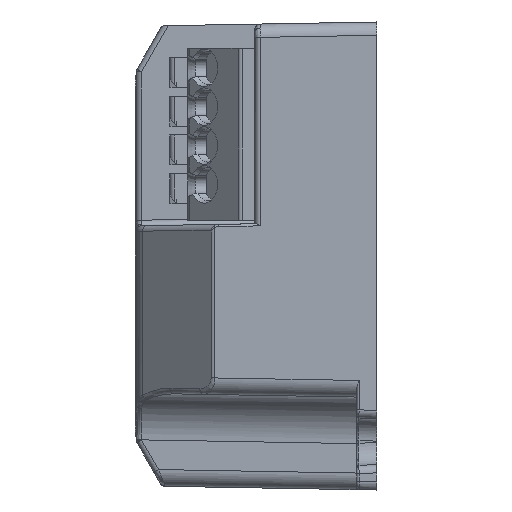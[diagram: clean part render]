
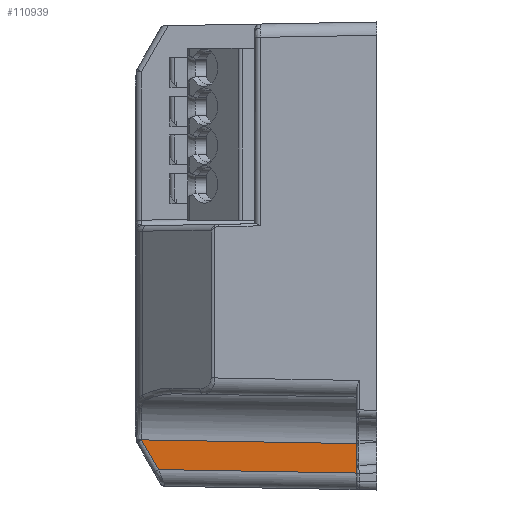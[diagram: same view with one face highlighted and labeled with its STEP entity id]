
A CAD part, left-side view. The second image highlights one B-rep face of the part: STEP entity #110939.
In plain terms, the highlighted planar face has unit normal (-1, 0.018, 0).
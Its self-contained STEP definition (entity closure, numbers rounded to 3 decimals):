
#85977 = PLANE('',#85978);
#85978 = AXIS2_PLACEMENT_3D('',#85979,#85980,#85981);
#85979 = CARTESIAN_POINT('',(-44.595,1.8,-16.995));
#85980 = DIRECTION('',(0.,-1.,0.));
#85981 = DIRECTION('',(0.,-0.,-1.));
#90528 = CYLINDRICAL_SURFACE('',#90529,0.5);
#90529 = AXIS2_PLACEMENT_3D('',#90530,#90531,#90532);
#90530 = CARTESIAN_POINT('',(-39.48,21.2,-21.1));
#90531 = DIRECTION('',(0.,0.,1.));
#90532 = DIRECTION('',(1.,0.,-0.));
#110939 = ADVANCED_FACE('',(#110940),#110954,.T.);
#110940 = FACE_BOUND('',#110941,.T.);
#110941 = EDGE_LOOP('',(#110942,#110972,#111000,#111028,#111051));
#110942 = ORIENTED_EDGE('',*,*,#110943,.T.);
#110943 = EDGE_CURVE('',#110944,#110946,#110948,.T.);
#110944 = VERTEX_POINT('',#110945);
#110945 = CARTESIAN_POINT('',(-39.98,21.209,
    -16.579));
#110946 = VERTEX_POINT('',#110947);
#110947 = CARTESIAN_POINT('',(-39.98,21.209,
    -16.593));
#110948 = SURFACE_CURVE('',#110949,(#110953,#110965),.PCURVE_S1.);
#110949 = LINE('',#110950,#110951);
#110950 = CARTESIAN_POINT('',(-39.98,21.209,-21.1));
#110951 = VECTOR('',#110952,1.);
#110952 = DIRECTION('',(0.,0.,-1.));
#110953 = PCURVE('',#110954,#110959);
#110954 = PLANE('',#110955);
#110955 = AXIS2_PLACEMENT_3D('',#110956,#110957,#110958);
#110956 = CARTESIAN_POINT('',(-40.35,0.,-21.1));
#110957 = DIRECTION('',(-1.,0.017,0.));
#110958 = DIRECTION('',(-0.017,-1.,0.));
#110959 = DEFINITIONAL_REPRESENTATION('',(#110960),#110964);
#110960 = LINE('',#110961,#110962);
#110961 = CARTESIAN_POINT('',(-21.212,0.));
#110962 = VECTOR('',#110963,1.);
#110963 = DIRECTION('',(-0.,-1.));
#110964 = ( GEOMETRIC_REPRESENTATION_CONTEXT(2) 
PARAMETRIC_REPRESENTATION_CONTEXT() REPRESENTATION_CONTEXT('2D SPACE',''
  ) );
#110965 = PCURVE('',#90528,#110966);
#110966 = DEFINITIONAL_REPRESENTATION('',(#110967),#110971);
#110967 = LINE('',#110968,#110969);
#110968 = CARTESIAN_POINT('',(3.124,0.));
#110969 = VECTOR('',#110970,1.);
#110970 = DIRECTION('',(0.,-1.));
#110971 = ( GEOMETRIC_REPRESENTATION_CONTEXT(2) 
PARAMETRIC_REPRESENTATION_CONTEXT() REPRESENTATION_CONTEXT('2D SPACE',''
  ) );
#110972 = ORIENTED_EDGE('',*,*,#110973,.T.);
#110973 = EDGE_CURVE('',#110946,#110974,#110976,.T.);
#110974 = VERTEX_POINT('',#110975);
#110975 = CARTESIAN_POINT('',(-40.007,19.671,
    -19.257));
#110976 = SURFACE_CURVE('',#110977,(#110981,#110988),.PCURVE_S1.);
#110977 = LINE('',#110978,#110979);
#110978 = CARTESIAN_POINT('',(-40.106,13.954,
    -29.159));
#110979 = VECTOR('',#110980,1.);
#110980 = DIRECTION('',(-0.009,-0.5,
    -0.866));
#110981 = PCURVE('',#110954,#110982);
#110982 = DEFINITIONAL_REPRESENTATION('',(#110983),#110987);
#110983 = LINE('',#110984,#110985);
#110984 = CARTESIAN_POINT('',(-13.956,-8.059));
#110985 = VECTOR('',#110986,1.);
#110986 = DIRECTION('',(0.5,-0.866));
#110987 = ( GEOMETRIC_REPRESENTATION_CONTEXT(2) 
PARAMETRIC_REPRESENTATION_CONTEXT() REPRESENTATION_CONTEXT('2D SPACE',''
  ) );
#110988 = PCURVE('',#110989,#110994);
#110989 = CYLINDRICAL_SURFACE('',#110990,0.5);
#110990 = AXIS2_PLACEMENT_3D('',#110991,#110992,#110993);
#110991 = CARTESIAN_POINT('',(-39.607,13.945,
    -29.159));
#110992 = DIRECTION('',(0.009,0.5,0.866
    ));
#110993 = DIRECTION('',(0.,-0.866,0.5));
#110994 = DEFINITIONAL_REPRESENTATION('',(#110995),#110999);
#110995 = LINE('',#110996,#110997);
#110996 = CARTESIAN_POINT('',(4.697,0.));
#110997 = VECTOR('',#110998,1.);
#110998 = DIRECTION('',(0.,-1.));
#110999 = ( GEOMETRIC_REPRESENTATION_CONTEXT(2) 
PARAMETRIC_REPRESENTATION_CONTEXT() REPRESENTATION_CONTEXT('2D SPACE',''
  ) );
#111000 = ORIENTED_EDGE('',*,*,#111001,.T.);
#111001 = EDGE_CURVE('',#110974,#111002,#111004,.T.);
#111002 = VERTEX_POINT('',#111003);
#111003 = CARTESIAN_POINT('',(-40.319,1.8,-19.569));
#111004 = SURFACE_CURVE('',#111005,(#111009,#111016),.PCURVE_S1.);
#111005 = LINE('',#111006,#111007);
#111006 = CARTESIAN_POINT('',(-40.35,-0.026,
    -19.601));
#111007 = VECTOR('',#111008,1.);
#111008 = DIRECTION('',(-0.017,-1.,
    -0.017));
#111009 = PCURVE('',#110954,#111010);
#111010 = DEFINITIONAL_REPRESENTATION('',(#111011),#111015);
#111011 = LINE('',#111012,#111013);
#111012 = CARTESIAN_POINT('',(0.026,1.499));
#111013 = VECTOR('',#111014,1.);
#111014 = DIRECTION('',(1.,-0.017));
#111015 = ( GEOMETRIC_REPRESENTATION_CONTEXT(2) 
PARAMETRIC_REPRESENTATION_CONTEXT() REPRESENTATION_CONTEXT('2D SPACE',''
  ) );
#111016 = PCURVE('',#111017,#111022);
#111017 = CYLINDRICAL_SURFACE('',#111018,1.5);
#111018 = AXIS2_PLACEMENT_3D('',#111019,#111020,#111021);
#111019 = CARTESIAN_POINT('',(-38.824,1.501,
    -19.574));
#111020 = DIRECTION('',(0.017,1.,
    0.017));
#111021 = DIRECTION('',(0.,-0.017,
    1.));
#111022 = DEFINITIONAL_REPRESENTATION('',(#111023),#111027);
#111023 = LINE('',#111024,#111025);
#111024 = CARTESIAN_POINT('',(4.712,-1.554));
#111025 = VECTOR('',#111026,1.);
#111026 = DIRECTION('',(0.,-1.));
#111027 = ( GEOMETRIC_REPRESENTATION_CONTEXT(2) 
PARAMETRIC_REPRESENTATION_CONTEXT() REPRESENTATION_CONTEXT('2D SPACE',''
  ) );
#111028 = ORIENTED_EDGE('',*,*,#111029,.F.);
#111029 = EDGE_CURVE('',#111030,#111002,#111032,.T.);
#111030 = VERTEX_POINT('',#111031);
#111031 = CARTESIAN_POINT('',(-40.319,1.8,-16.918));
#111032 = SURFACE_CURVE('',#111033,(#111037,#111044),.PCURVE_S1.);
#111033 = LINE('',#111034,#111035);
#111034 = CARTESIAN_POINT('',(-40.319,1.8,-21.1));
#111035 = VECTOR('',#111036,1.);
#111036 = DIRECTION('',(-0.,-0.,-1.));
#111037 = PCURVE('',#110954,#111038);
#111038 = DEFINITIONAL_REPRESENTATION('',(#111039),#111043);
#111039 = LINE('',#111040,#111041);
#111040 = CARTESIAN_POINT('',(-1.8,0.));
#111041 = VECTOR('',#111042,1.);
#111042 = DIRECTION('',(0.,-1.));
#111043 = ( GEOMETRIC_REPRESENTATION_CONTEXT(2) 
PARAMETRIC_REPRESENTATION_CONTEXT() REPRESENTATION_CONTEXT('2D SPACE',''
  ) );
#111044 = PCURVE('',#85977,#111045);
#111045 = DEFINITIONAL_REPRESENTATION('',(#111046),#111050);
#111046 = LINE('',#111047,#111048);
#111047 = CARTESIAN_POINT('',(4.105,4.277));
#111048 = VECTOR('',#111049,1.);
#111049 = DIRECTION('',(1.,0.));
#111050 = ( GEOMETRIC_REPRESENTATION_CONTEXT(2) 
PARAMETRIC_REPRESENTATION_CONTEXT() REPRESENTATION_CONTEXT('2D SPACE',''
  ) );
#111051 = ORIENTED_EDGE('',*,*,#111052,.T.);
#111052 = EDGE_CURVE('',#111030,#110944,#111053,.T.);
#111053 = SURFACE_CURVE('',#111054,(#111058,#111065),.PCURVE_S1.);
#111054 = LINE('',#111055,#111056);
#111055 = CARTESIAN_POINT('',(-39.97,21.773,
    -16.569));
#111056 = VECTOR('',#111057,1.);
#111057 = DIRECTION('',(0.017,1.,
    0.017));
#111058 = PCURVE('',#110954,#111059);
#111059 = DEFINITIONAL_REPRESENTATION('',(#111060),#111064);
#111060 = LINE('',#111061,#111062);
#111061 = CARTESIAN_POINT('',(-21.777,4.531));
#111062 = VECTOR('',#111063,1.);
#111063 = DIRECTION('',(-1.,0.017));
#111064 = ( GEOMETRIC_REPRESENTATION_CONTEXT(2) 
PARAMETRIC_REPRESENTATION_CONTEXT() REPRESENTATION_CONTEXT('2D SPACE',''
  ) );
#111065 = PCURVE('',#111066,#111071);
#111066 = CYLINDRICAL_SURFACE('',#111067,4.2);
#111067 = AXIS2_PLACEMENT_3D('',#111068,#111069,#111070);
#111068 = CARTESIAN_POINT('',(-44.551,0.001,
    -16.951));
#111069 = DIRECTION('',(-0.017,-1.,
    -0.017));
#111070 = DIRECTION('',(0.,0.017,
    -1.));
#111071 = DEFINITIONAL_REPRESENTATION('',(#111072),#111076);
#111072 = LINE('',#111073,#111074);
#111073 = CARTESIAN_POINT('',(1.571,-21.852));
#111074 = VECTOR('',#111075,1.);
#111075 = DIRECTION('',(0.,-1.));
#111076 = ( GEOMETRIC_REPRESENTATION_CONTEXT(2) 
PARAMETRIC_REPRESENTATION_CONTEXT() REPRESENTATION_CONTEXT('2D SPACE',''
  ) );
